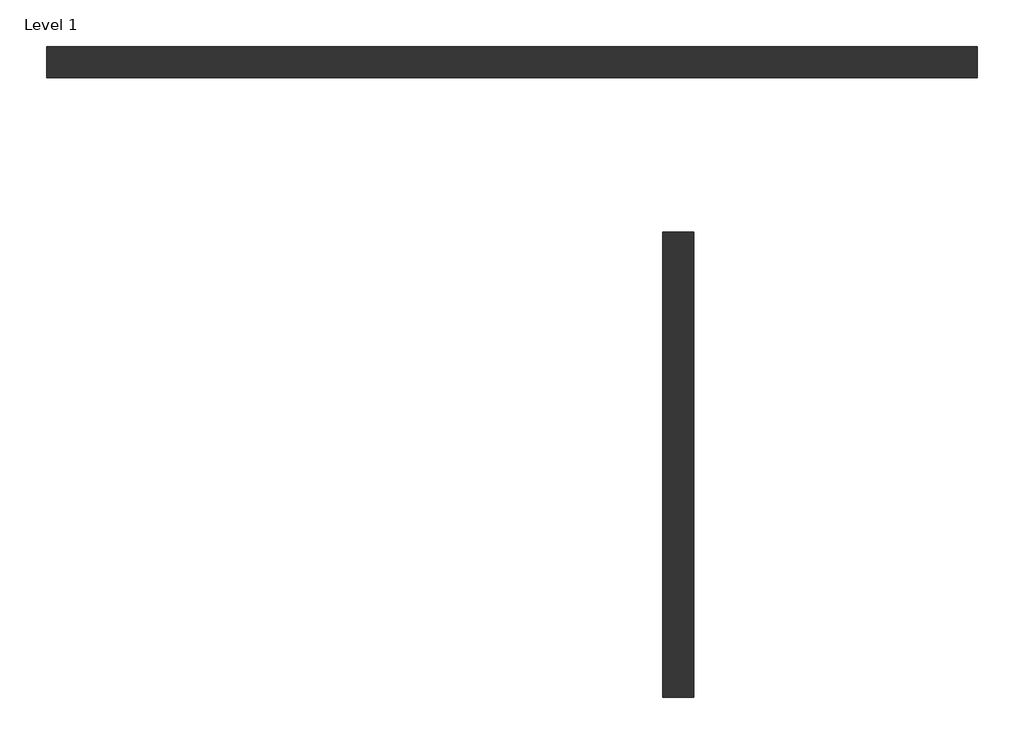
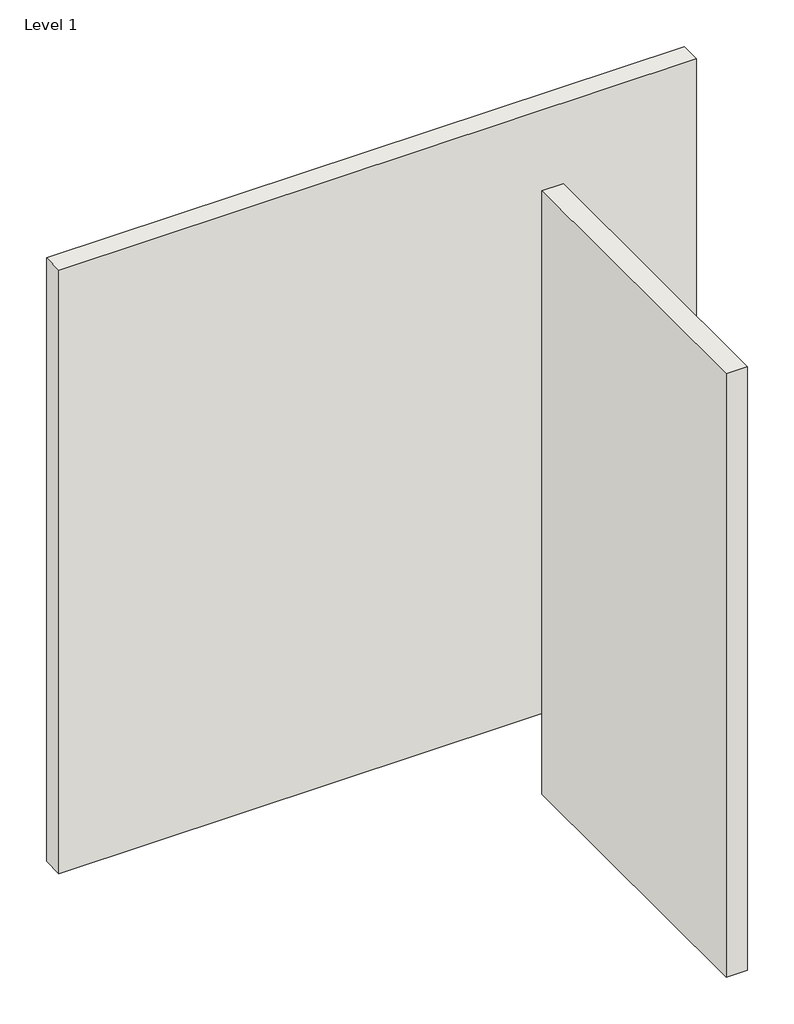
# One storey: 2 walls.
"""IFC4 building model written with IfcOpenShell, lengths in millimetres."""

from ifc_helpers import new_model, si_unit, origin, origin_with_axes, place, context, project, spatial, polyline, outline, extrude, element, save

model = new_model("IFC4")

# Units and contexts
model_context = context("Model", 3, world=origin())
ifc_project = project(units=[si_unit("LENGTHUNIT", "METRE", prefix="MILLI")], contexts=[model_context])

# Site, building, storey
site = spatial("IfcSite", under=ifc_project)
building = spatial("IfcBuilding", under=site)
storey = spatial("IfcBuildingStorey", under=building, Name="Level 1", Elevation=0.0)

# Walls
placement = place(None, origin())
element("IfcWall", 1, ObjectType="Generic - 8\"", at=placement, inside=storey, context=model_context, shape_type="SweptSolid", body=[
    extrude(outline(polyline([(3784.3397098, -741.8838621), (-2311.6602902, -741.8838621), (-2311.6602902, -538.6838621), (3784.3397098, -538.6838621), (3784.3397098, -741.8838621)])), origin_with_axes(), (0.0, 0.0, 1.0), 6096.0),
])
element("IfcWall", 2, ObjectType="Generic - 8\"", at=placement, inside=storey, context=model_context, shape_type="SweptSolid", body=[
    extrude(outline(polyline([(1723.5911572, -4802.4316777), (1723.5911572, -1754.4316777), (1926.7911572, -1754.4316777), (1926.7911572, -4802.4316777), (1723.5911572, -4802.4316777)])), origin_with_axes(), (0.0, 0.0, 1.0), 6096.0),
])

save(model, "model.ifc")
